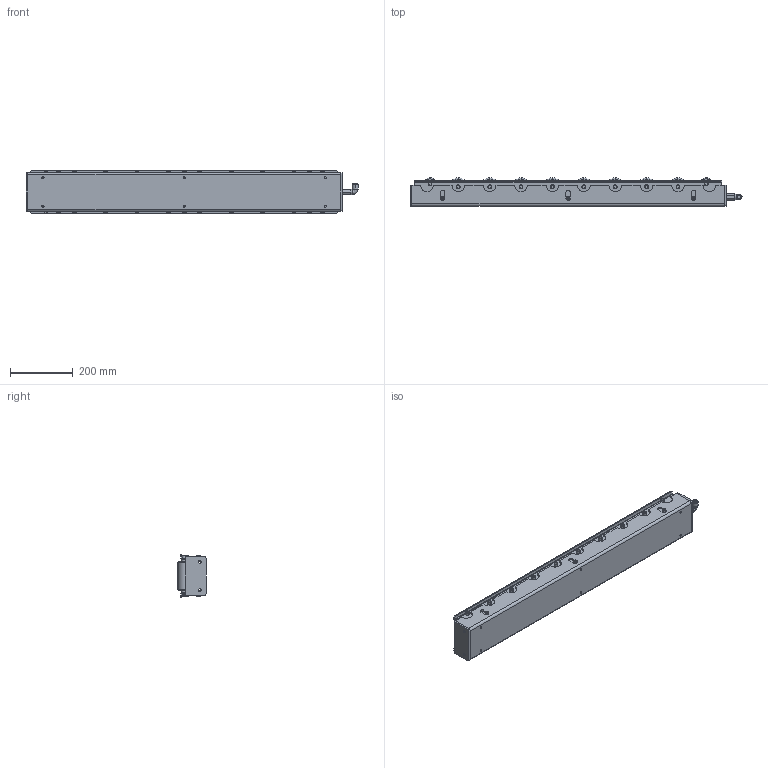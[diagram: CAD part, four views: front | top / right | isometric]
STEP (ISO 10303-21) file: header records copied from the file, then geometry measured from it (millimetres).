
FILE_DESCRIPTION (( 'STEP AP214' ), '1' );
FILE_NAME ('ALR-PR-571008H_L.STEP', '2013-03-21T04:48:47', ( '' ), ( '' ), '', '', '' );
FILE_SCHEMA (( 'AUTOMOTIVE_DESIGN' ));
Length unit declared in the file: millimetre
Products named in the file (7): frame2; ALR-PR-571008H_L; 38roller; 57roller; KQ2W10_03S_2_03; CB10_12; frame1
Assembly tree (19 placements, depth 2):
  ALR-PR-571008H_L
    frame2
    frame1
    CB10_12  x6
    KQ2W10_03S_2_03
    57roller  x8
    38roller  x2
Bounding box: 1058 x 90.05 x 135 mm (x, y, z)
Volume: 4045534.8 mm3; surface area: 1257071.6 mm2
Topology: 25 solids, 25 shells, 764 faces, 1900 edges, 1218 vertices
Faces by surface type: cylinder 348, plane 326, cone 48, torus 40, bspline 2
Entity records: 12727 total; most frequent: CARTESIAN_POINT 2535, DIRECTION 2060, ORIENTED_EDGE 1900, EDGE_CURVE 950, AXIS2_PLACEMENT_3D 755, VERTEX_POINT 623, VECTOR 550, LINE 550
